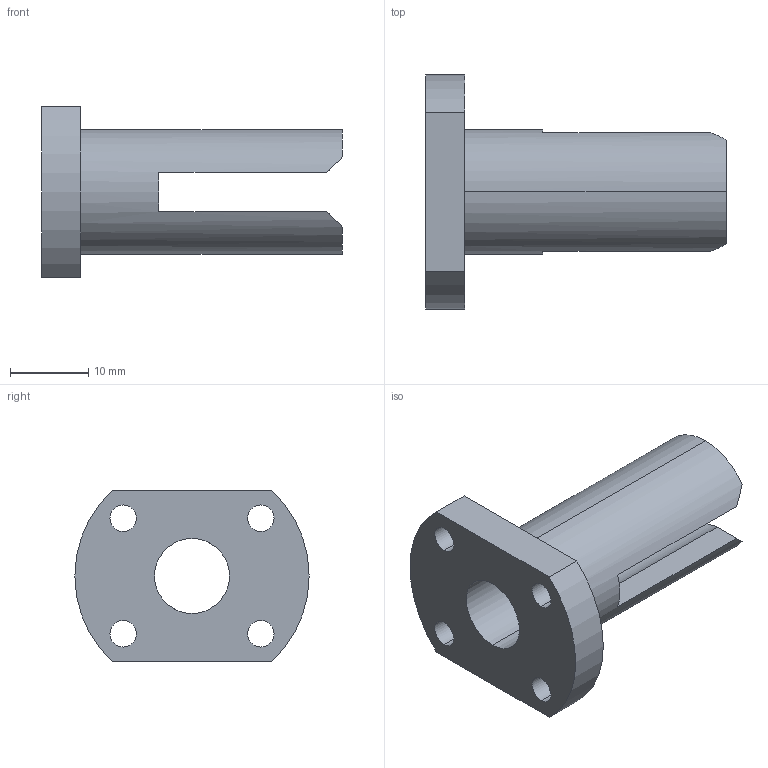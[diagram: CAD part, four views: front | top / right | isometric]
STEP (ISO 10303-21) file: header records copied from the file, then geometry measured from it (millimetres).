
FILE_DESCRIPTION (( 'STEP AP214' ), '1' );
FILE_NAME ('GZ30.12_V1锁紧销导套.STEP', '2021-06-05T06:48:21', ( '微软中国' ), ( 'Microsoft' ), 'SwSTEP 2.0', 'SolidWorks 2017', '' );
FILE_SCHEMA (( 'AUTOMOTIVE_DESIGN' ));
Length unit declared in the file: millimetre
Products named in the file (1): GZ30.12_V1坶踡种絳杶
Bounding box: 38.5 x 30 x 22 mm (x, y, z)
Volume: 5936.8 mm3; surface area: 4290.2 mm2
Topology: 1 solids, 1 shells, 30 faces, 84 edges, 56 vertices
Faces by surface type: plane 16, cylinder 14
Entity records: 1038 total; most frequent: CARTESIAN_POINT 195, DIRECTION 174, ORIENTED_EDGE 168, EDGE_CURVE 84, AXIS2_PLACEMENT_3D 67, VERTEX_POINT 56, EDGE_LOOP 40, LINE 40
